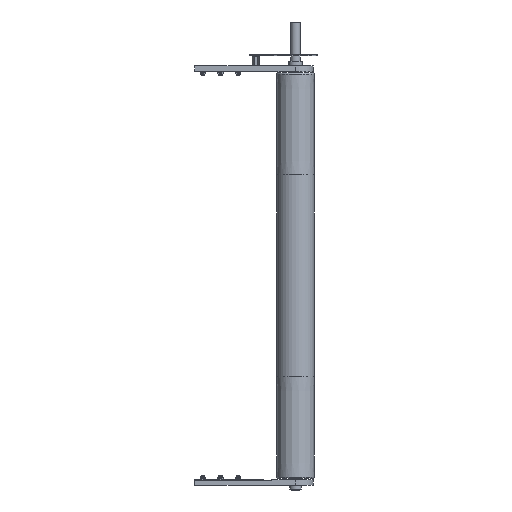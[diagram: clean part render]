
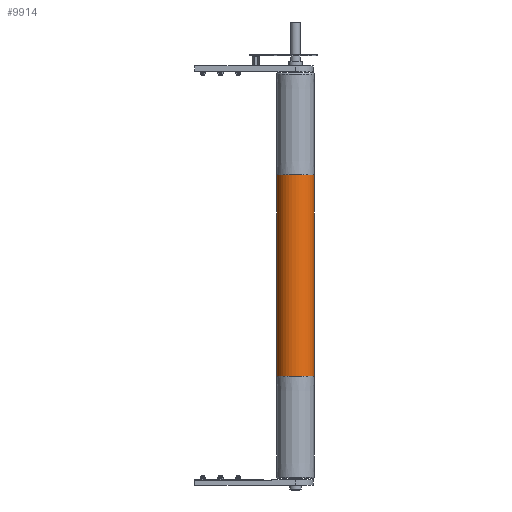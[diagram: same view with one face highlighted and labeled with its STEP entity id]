
A CAD part, front view. The second image highlights one B-rep face of the part: STEP entity #9914.
In plain terms, the highlighted cylindrical face has radius 47.5 mm (diameter 95 mm), a partial arc.
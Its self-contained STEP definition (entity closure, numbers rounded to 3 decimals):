
#4869 = AXIS2_PLACEMENT_3D ( 'NONE', #13341, #13342, #13343 ) ;
#5891 = VERTEX_POINT ( 'NONE', #12905 ) ;
#5893 = VERTEX_POINT ( 'NONE', #12907 ) ;
#5901 = VERTEX_POINT ( 'NONE', #12915 ) ;
#5902 = VERTEX_POINT ( 'NONE', #12916 ) ;
#7248 = CARTESIAN_POINT ( 'NONE',  ( -47.5, 0., 510. ) ) ;
#7249 = DIRECTION ( 'NONE',  ( 0., 0., -1. ) ) ;
#7305 = CARTESIAN_POINT ( 'NONE',  ( 0., 0., 255. ) ) ;
#7306 = DIRECTION ( 'NONE',  ( 0., 0., 1. ) ) ;
#7307 = DIRECTION ( 'NONE',  ( 1., 0., 0. ) ) ;
#8987 = ORIENTED_EDGE ( 'NONE', *, *, #16924, .F. ) ;
#8988 = ORIENTED_EDGE ( 'NONE', *, *, #16803, .F. ) ;
#8989 = ORIENTED_EDGE ( 'NONE', *, *, #16782, .T. ) ;
#8990 = ORIENTED_EDGE ( 'NONE', *, *, #16933, .T. ) ;
#9914 = ADVANCED_FACE ( 'NONE', ( #14722 ), #14728, .T. ) ;
#12458 = DIRECTION ( 'NONE',  ( -1., 0., 0. ) ) ;
#12462 = DIRECTION ( 'NONE',  ( 0., 0., -1. ) ) ;
#12463 = CARTESIAN_POINT ( 'NONE',  ( 0., 0., 510. ) ) ;
#12905 = CARTESIAN_POINT ( 'NONE',  ( -47.5, 0., -255. ) ) ;
#12907 = CARTESIAN_POINT ( 'NONE',  ( 47.5, 0., -255. ) ) ;
#12915 = CARTESIAN_POINT ( 'NONE',  ( -47.5, 0., 255. ) ) ;
#12916 = CARTESIAN_POINT ( 'NONE',  ( 47.5, 0., 255. ) ) ;
#13309 = DIRECTION ( 'NONE',  ( 0., 0., -1. ) ) ;
#13310 = CARTESIAN_POINT ( 'NONE',  ( 47.5, 0., 510. ) ) ;
#13341 = CARTESIAN_POINT ( 'NONE',  ( 0., 0., -255. ) ) ;
#13342 = DIRECTION ( 'NONE',  ( 0., 0., 1. ) ) ;
#13343 = DIRECTION ( 'NONE',  ( 1., 0., 0. ) ) ;
#14722 = FACE_OUTER_BOUND ( 'NONE', #18396, .T. ) ;
#14728 = CYLINDRICAL_SURFACE ( 'NONE', #14811, 47.5 ) ;
#14811 = AXIS2_PLACEMENT_3D ( 'NONE', #12463, #12462, #12458 ) ;
#14954 = LINE ( 'NONE', #7248, #14959 ) ;
#14959 = VECTOR ( 'NONE', #7249, 1000. ) ;
#14976 = AXIS2_PLACEMENT_3D ( 'NONE', #7305, #7306, #7307 ) ;
#15004 = CIRCLE ( 'NONE', #14976, 47.5 ) ;
#16782 = EDGE_CURVE ( 'NONE', #5901, #5891, #14954, .T. ) ;
#16803 = EDGE_CURVE ( 'NONE', #5901, #5902, #15004, .T. ) ;
#16924 = EDGE_CURVE ( 'NONE', #5902, #5893, #17641, .T. ) ;
#16933 = EDGE_CURVE ( 'NONE', #5891, #5893, #17655, .T. ) ;
#17641 = LINE ( 'NONE', #13310, #17645 ) ;
#17645 = VECTOR ( 'NONE', #13309, 1000. ) ;
#17655 = CIRCLE ( 'NONE', #4869, 47.5 ) ;
#18396 = EDGE_LOOP ( 'NONE', ( #8987, #8988, #8989, #8990 ) ) ;
